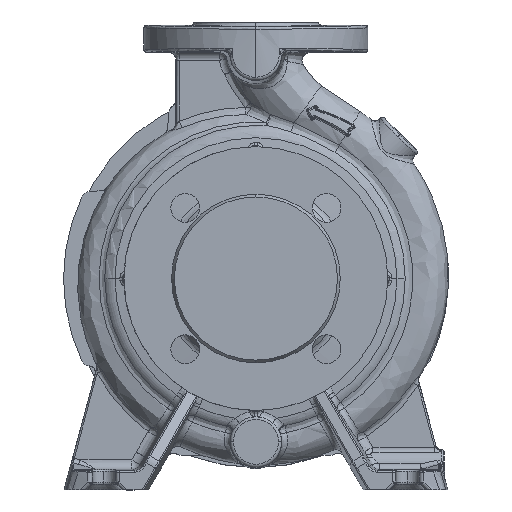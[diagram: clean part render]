
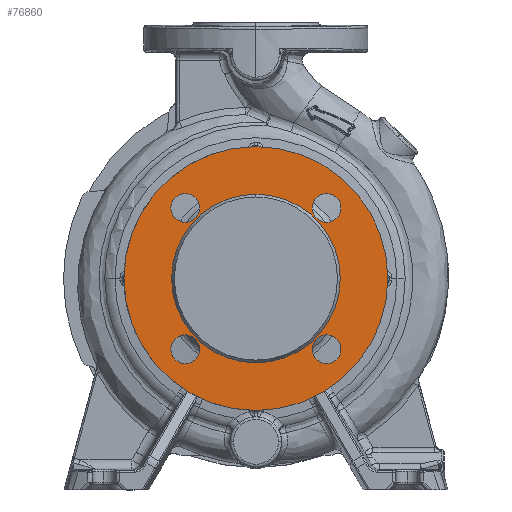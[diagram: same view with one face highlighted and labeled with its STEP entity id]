
A CAD part, top view. The second image highlights one B-rep face of the part: STEP entity #76860.
In plain terms, the highlighted planar face has unit normal (0, 0, 1).
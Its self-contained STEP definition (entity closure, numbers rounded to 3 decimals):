
#1318 = VERTEX_POINT ( 'NONE', #36754 ) ;
#1730 = DIRECTION ( 'NONE',  ( 0., 0., -1. ) ) ;
#1929 = EDGE_CURVE ( 'NONE', #57587, #83701, #106431, .T. ) ;
#3052 = AXIS2_PLACEMENT_3D ( 'NONE', #85038, #1730, #10183 ) ;
#3218 = ORIENTED_EDGE ( 'NONE', *, *, #1929, .T. ) ;
#4058 = ORIENTED_EDGE ( 'NONE', *, *, #21809, .T. ) ;
#4424 = ORIENTED_EDGE ( 'NONE', *, *, #44340, .T. ) ;
#5480 = DIRECTION ( 'NONE',  ( 0., 0., -1. ) ) ;
#5977 = EDGE_CURVE ( 'NONE', #25961, #81104, #12103, .T. ) ;
#6571 = DIRECTION ( 'NONE',  ( 0., 1., 0. ) ) ;
#6648 = EDGE_CURVE ( 'NONE', #83701, #57587, #86762, .T. ) ;
#6706 = ORIENTED_EDGE ( 'NONE', *, *, #5977, .T. ) ;
#7102 = CARTESIAN_POINT ( 'NONE',  ( -53.194, 44.194, 77. ) ) ;
#8877 = VERTEX_POINT ( 'NONE', #92893 ) ;
#10183 = DIRECTION ( 'NONE',  ( 0., 1., 0. ) ) ;
#11913 = CARTESIAN_POINT ( 'NONE',  ( -35.194, 44.194, 77. ) ) ;
#12103 = CIRCLE ( 'NONE', #16965, 9. ) ;
#12155 = PLANE ( 'NONE',  #62687 ) ;
#12616 = CARTESIAN_POINT ( 'NONE',  ( 35.194, 44.194, 77. ) ) ;
#12899 = CARTESIAN_POINT ( 'NONE',  ( 0., 52.732, 77. ) ) ;
#12965 = DIRECTION ( 'NONE',  ( 0., 1., 0. ) ) ;
#13442 = VERTEX_POINT ( 'NONE', #107672 ) ;
#13851 = AXIS2_PLACEMENT_3D ( 'NONE', #48967, #50773, #84483 ) ;
#14157 = FACE_BOUND ( 'NONE', #100659, .T. ) ;
#14501 = DIRECTION ( 'NONE',  ( 0., 0., -1. ) ) ;
#14705 = DIRECTION ( 'NONE',  ( 0., 1., 0. ) ) ;
#15700 = DIRECTION ( 'NONE',  ( 0., 1., 0. ) ) ;
#16663 = EDGE_LOOP ( 'NONE', ( #67202, #96578 ) ) ;
#16965 = AXIS2_PLACEMENT_3D ( 'NONE', #49891, #32645, #6571 ) ;
#17674 = CARTESIAN_POINT ( 'NONE',  ( 0., 0., 77. ) ) ;
#18619 = CIRCLE ( 'NONE', #57179, 52.732 ) ;
#21809 = EDGE_CURVE ( 'NONE', #81104, #25961, #101233, .T. ) ;
#22139 = CARTESIAN_POINT ( 'NONE',  ( 0., 0., 77. ) ) ;
#22528 = DIRECTION ( 'NONE',  ( 0., 1., 0. ) ) ;
#23199 = AXIS2_PLACEMENT_3D ( 'NONE', #41076, #99702, #41786 ) ;
#23523 = CARTESIAN_POINT ( 'NONE',  ( 0., 0., 77. ) ) ;
#24049 = EDGE_CURVE ( 'NONE', #47430, #13442, #78533, .T. ) ;
#24733 = FACE_BOUND ( 'NONE', #91210, .T. ) ;
#25961 = VERTEX_POINT ( 'NONE', #96101 ) ;
#27740 = EDGE_LOOP ( 'NONE', ( #83024, #71181 ) ) ;
#31052 = CARTESIAN_POINT ( 'NONE',  ( -35.194, -44.194, 77. ) ) ;
#31323 = CARTESIAN_POINT ( 'NONE',  ( -44.194, -44.194, 77. ) ) ;
#32645 = DIRECTION ( 'NONE',  ( 0., 0., -1. ) ) ;
#33296 = AXIS2_PLACEMENT_3D ( 'NONE', #31323, #73111, #22528 ) ;
#36419 = DIRECTION ( 'NONE',  ( 0., 0., -1. ) ) ;
#36754 = CARTESIAN_POINT ( 'NONE',  ( 0., -52.732, 77. ) ) ;
#38732 = EDGE_CURVE ( 'NONE', #96183, #97940, #81131, .T. ) ;
#39108 = CARTESIAN_POINT ( 'NONE',  ( -44.194, -44.194, 77. ) ) ;
#39621 = CIRCLE ( 'NONE', #60553, 52.732 ) ;
#39816 = CARTESIAN_POINT ( 'NONE',  ( 0., 82.5, 77. ) ) ;
#39855 = CARTESIAN_POINT ( 'NONE',  ( 44.194, 44.194, 77. ) ) ;
#41076 = CARTESIAN_POINT ( 'NONE',  ( 44.194, -44.194, 77. ) ) ;
#41786 = DIRECTION ( 'NONE',  ( 0., 1., 0. ) ) ;
#41869 = CIRCLE ( 'NONE', #61423, 9. ) ;
#42983 = DIRECTION ( 'NONE',  ( 0., 0., -1. ) ) ;
#44340 = EDGE_CURVE ( 'NONE', #13442, #47430, #91991, .T. ) ;
#45628 = FACE_OUTER_BOUND ( 'NONE', #83409, .T. ) ;
#47430 = VERTEX_POINT ( 'NONE', #31052 ) ;
#48967 = CARTESIAN_POINT ( 'NONE',  ( 0., 0., 77. ) ) ;
#49891 = CARTESIAN_POINT ( 'NONE',  ( 44.194, -44.194, 77. ) ) ;
#50688 = EDGE_CURVE ( 'NONE', #1318, #8877, #18619, .T. ) ;
#50773 = DIRECTION ( 'NONE',  ( 0., 0., -1. ) ) ;
#52581 = CARTESIAN_POINT ( 'NONE',  ( 44.194, 44.194, 77. ) ) ;
#53654 = DIRECTION ( 'NONE',  ( 0., 1., 0. ) ) ;
#54684 = VERTEX_POINT ( 'NONE', #12616 ) ;
#55986 = ORIENTED_EDGE ( 'NONE', *, *, #24049, .T. ) ;
#56973 = EDGE_CURVE ( 'NONE', #8877, #1318, #39621, .T. ) ;
#57179 = AXIS2_PLACEMENT_3D ( 'NONE', #22139, #64326, #12965 ) ;
#57587 = VERTEX_POINT ( 'NONE', #7102 ) ;
#60510 = CARTESIAN_POINT ( 'NONE',  ( 53.194, 44.194, 77. ) ) ;
#60553 = AXIS2_PLACEMENT_3D ( 'NONE', #17674, #42983, #86196 ) ;
#61423 = AXIS2_PLACEMENT_3D ( 'NONE', #52581, #36419, #53654 ) ;
#62687 = AXIS2_PLACEMENT_3D ( 'NONE', #12899, #96847, #70867 ) ;
#64326 = DIRECTION ( 'NONE',  ( 0., 0., -1. ) ) ;
#65915 = DIRECTION ( 'NONE',  ( 0., 1., 0. ) ) ;
#67202 = ORIENTED_EDGE ( 'NONE', *, *, #101936, .T. ) ;
#70867 = DIRECTION ( 'NONE',  ( 0., 1., 0. ) ) ;
#71181 = ORIENTED_EDGE ( 'NONE', *, *, #50688, .T. ) ;
#72897 = CIRCLE ( 'NONE', #108111, 9. ) ;
#73111 = DIRECTION ( 'NONE',  ( 0., 0., -1. ) ) ;
#74771 = ORIENTED_EDGE ( 'NONE', *, *, #6648, .T. ) ;
#74906 = AXIS2_PLACEMENT_3D ( 'NONE', #23523, #5480, #14705 ) ;
#75432 = CARTESIAN_POINT ( 'NONE',  ( 35.194, -44.194, 77. ) ) ;
#76860 = ADVANCED_FACE ( 'NONE', ( #84992, #45628, #24733, #88992, #14157, #100745 ), #12155, .F. ) ;
#77894 = CARTESIAN_POINT ( 'NONE',  ( 0., -82.5, 77. ) ) ;
#78533 = CIRCLE ( 'NONE', #81638, 9. ) ;
#79616 = EDGE_CURVE ( 'NONE', #97940, #96183, #105383, .T. ) ;
#80400 = AXIS2_PLACEMENT_3D ( 'NONE', #98549, #98183, #15700 ) ;
#80947 = EDGE_LOOP ( 'NONE', ( #55986, #4424 ) ) ;
#81104 = VERTEX_POINT ( 'NONE', #75432 ) ;
#81131 = CIRCLE ( 'NONE', #13851, 82.5 ) ;
#81638 = AXIS2_PLACEMENT_3D ( 'NONE', #39108, #14501, #96628 ) ;
#82352 = DIRECTION ( 'NONE',  ( 0., 0., -1. ) ) ;
#83024 = ORIENTED_EDGE ( 'NONE', *, *, #56973, .T. ) ;
#83409 = EDGE_LOOP ( 'NONE', ( #103865, #92552 ) ) ;
#83701 = VERTEX_POINT ( 'NONE', #11913 ) ;
#84483 = DIRECTION ( 'NONE',  ( 0., 1., 0. ) ) ;
#84992 = FACE_BOUND ( 'NONE', #27740, .T. ) ;
#85038 = CARTESIAN_POINT ( 'NONE',  ( -44.194, 44.194, 77. ) ) ;
#86196 = DIRECTION ( 'NONE',  ( 0., 1., 0. ) ) ;
#86762 = CIRCLE ( 'NONE', #80400, 9. ) ;
#88428 = EDGE_CURVE ( 'NONE', #54684, #103310, #41869, .T. ) ;
#88992 = FACE_BOUND ( 'NONE', #16663, .T. ) ;
#91210 = EDGE_LOOP ( 'NONE', ( #74771, #3218 ) ) ;
#91991 = CIRCLE ( 'NONE', #33296, 9. ) ;
#92552 = ORIENTED_EDGE ( 'NONE', *, *, #79616, .F. ) ;
#92893 = CARTESIAN_POINT ( 'NONE',  ( 0., 52.732, 77. ) ) ;
#96101 = CARTESIAN_POINT ( 'NONE',  ( 53.194, -44.194, 77. ) ) ;
#96183 = VERTEX_POINT ( 'NONE', #39816 ) ;
#96578 = ORIENTED_EDGE ( 'NONE', *, *, #88428, .T. ) ;
#96628 = DIRECTION ( 'NONE',  ( 0., 1., 0. ) ) ;
#96847 = DIRECTION ( 'NONE',  ( 0., 0., -1. ) ) ;
#97940 = VERTEX_POINT ( 'NONE', #77894 ) ;
#98183 = DIRECTION ( 'NONE',  ( 0., 0., -1. ) ) ;
#98549 = CARTESIAN_POINT ( 'NONE',  ( -44.194, 44.194, 77. ) ) ;
#99702 = DIRECTION ( 'NONE',  ( 0., 0., -1. ) ) ;
#100659 = EDGE_LOOP ( 'NONE', ( #6706, #4058 ) ) ;
#100745 = FACE_BOUND ( 'NONE', #80947, .T. ) ;
#101233 = CIRCLE ( 'NONE', #23199, 9. ) ;
#101936 = EDGE_CURVE ( 'NONE', #103310, #54684, #72897, .T. ) ;
#103310 = VERTEX_POINT ( 'NONE', #60510 ) ;
#103865 = ORIENTED_EDGE ( 'NONE', *, *, #38732, .F. ) ;
#105383 = CIRCLE ( 'NONE', #74906, 82.5 ) ;
#106431 = CIRCLE ( 'NONE', #3052, 9. ) ;
#107672 = CARTESIAN_POINT ( 'NONE',  ( -53.194, -44.194, 77. ) ) ;
#108111 = AXIS2_PLACEMENT_3D ( 'NONE', #39855, #82352, #65915 ) ;
